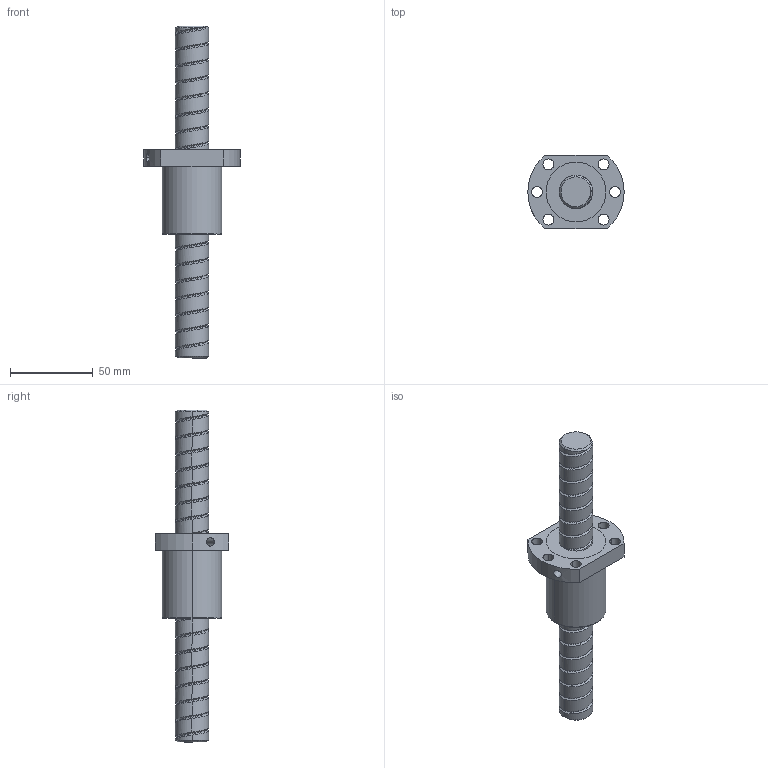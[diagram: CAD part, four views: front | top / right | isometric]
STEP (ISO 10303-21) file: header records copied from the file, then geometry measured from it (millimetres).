
FILE_DESCRIPTION (( 'STEP AP214' ), '1' );
FILE_NAME ('SFU2010-C-SFU2010.STEP', '2025-04-25T12:57:07', ( '' ), ( '' ), 'SwSTEP 2.0', 'SolidWorks 2019', '' );
FILE_SCHEMA (( 'AUTOMOTIVE_DESIGN' ));
Length unit declared in the file: millimetre
Products named in the file (3): C-SFU20; SFU2010; SFU2010-C-SFU2010
Assembly tree (2 placements, depth 2):
  SFU2010-C-SFU2010
    SFU2010
    C-SFU20
Bounding box: 58 x 44 x 200 mm (x, y, z)
Volume: 107462 mm3; surface area: 32795.1 mm2
Topology: 4 solids, 4 shells, 112 faces, 348 edges, 248 vertices
Faces by surface type: cylinder 88, plane 13, cone 6, bspline 3, torus 2
Entity records: 20053 total; most frequent: CARTESIAN_POINT 17007, ORIENTED_EDGE 696, DIRECTION 513, EDGE_CURVE 348, VERTEX_POINT 248, AXIS2_PLACEMENT_3D 199, EDGE_LOOP 136, VECTOR 115
